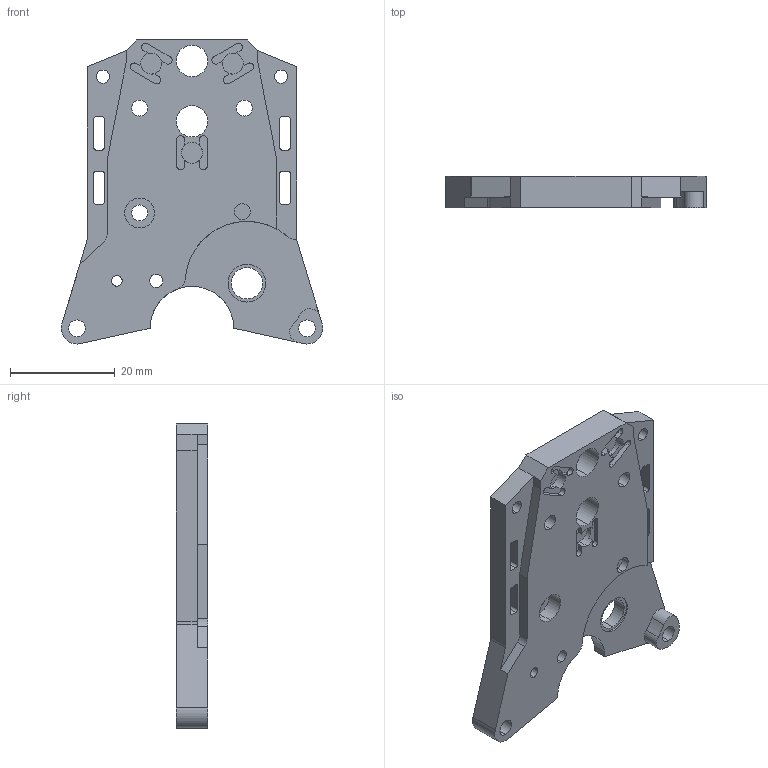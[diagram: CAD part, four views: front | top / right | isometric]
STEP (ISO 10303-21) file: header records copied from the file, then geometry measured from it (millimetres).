
FILE_DESCRIPTION (( 'STEP AP214' ), '1' );
FILE_NAME ('打印头背板cnc（三叉戟）.STEP', '2026-04-12T11:12:14', ( '' ), ( '' ), 'SwSTEP 2.0', 'SolidWorks 2024', '' );
FILE_SCHEMA (( 'AUTOMOTIVE_DESIGN' ));
Length unit declared in the file: millimetre
Products named in the file (1): 打印头背板cnc（三叉戟）
Bounding box: 49.84 x 6 x 58 mm (x, y, z)
Volume: 10089.9 mm3; surface area: 6335.6 mm2
Topology: 1 solids, 1 shells, 154 faces, 435 edges, 289 vertices
Faces by surface type: cylinder 84, plane 70
Entity records: 5144 total; most frequent: DIRECTION 927, CARTESIAN_POINT 879, ORIENTED_EDGE 870, EDGE_CURVE 435, AXIS2_PLACEMENT_3D 337, VERTEX_POINT 289, LINE 253, VECTOR 253
